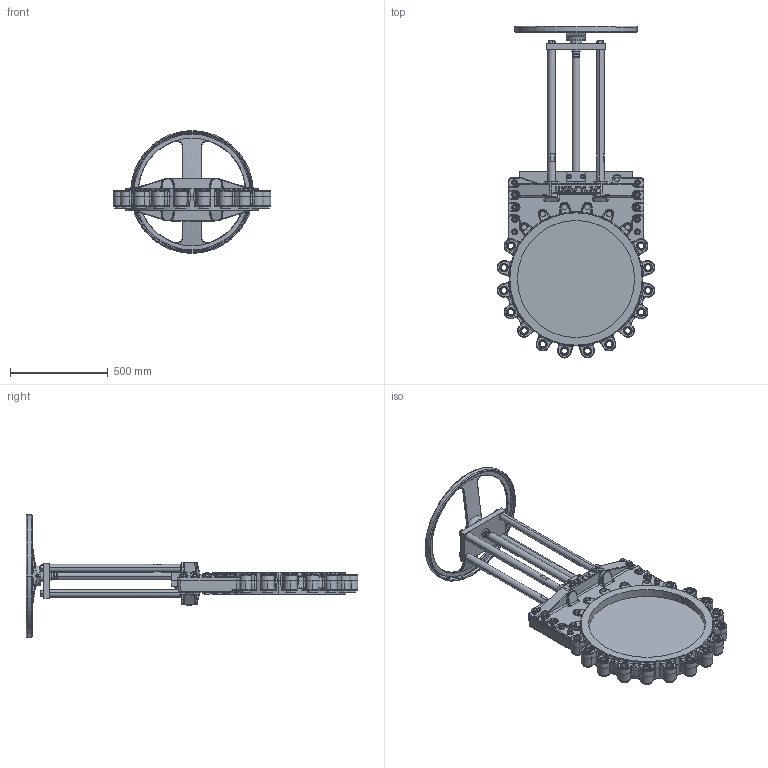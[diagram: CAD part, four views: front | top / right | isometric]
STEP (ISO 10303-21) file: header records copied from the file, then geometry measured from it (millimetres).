
FILE_DESCRIPTION (( 'STEP AP214' ), '1' );
FILE_NAME ('VLA DN 0600.STEP', '2022-09-20T07:00:14', ( '' ), ( '' ), 'SwSTEP 2.0', 'SolidWorks 2021', '' );
FILE_SCHEMA (( 'AUTOMOTIVE_DESIGN' ));
Length unit declared in the file: millimetre
Products named in the file (1): VLA DN 0600
Bounding box: 810.07 x 1702.02 x 630 mm (x, y, z)
Volume: 47666512.2 mm3; surface area: 3368647.4 mm2
Topology: 1 solids, 46 shells, 3486 faces, 8160 edges, 4758 vertices
Faces by surface type: plane 1110, cylinder 877, bspline 599, cone 595, torus 259, sphere 46
Entity records: 164008 total; most frequent: CARTESIAN_POINT 51027, ORIENTED_EDGE 15964, DIRECTION 15174, EDGE_CURVE 7982, AXIS2_PLACEMENT_3D 6222, VERTEX_POINT 4758, EDGE_LOOP 3776, UNCERTAINTY_MEASURE_WITH_UNIT 3487
